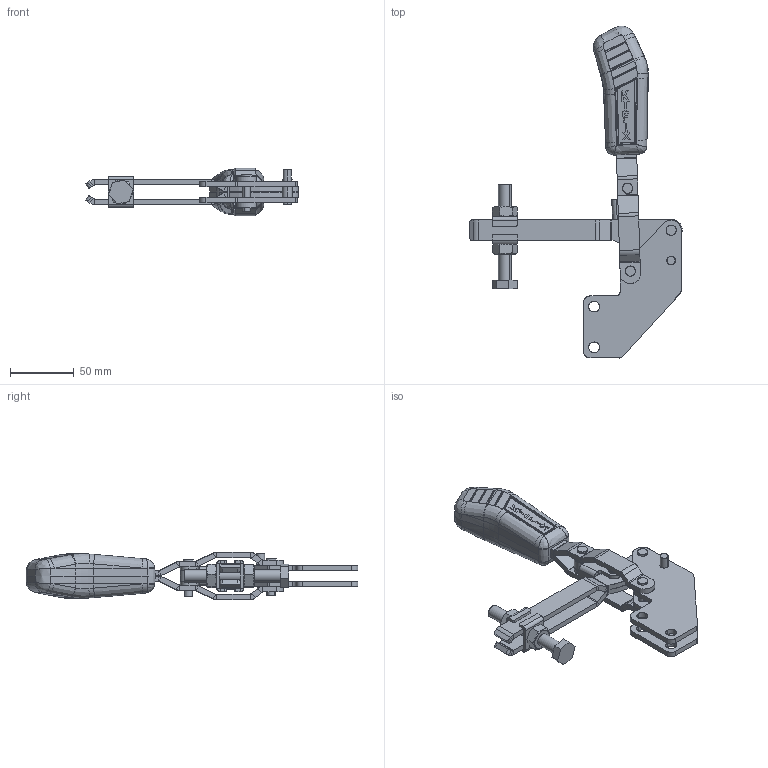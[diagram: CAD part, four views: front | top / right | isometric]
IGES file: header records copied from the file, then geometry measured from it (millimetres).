
Start section: SolidWorks IGES file using analytic representation for surfaces
Global section: file name: C:\Projetos\Grampos\KF-311\KF-311 RB\KF-311 RB.IGS; native system: SolidWorks 2013; preprocessor: SolidWorks 2013; author: Ricardo; date: 140731.142330; units: millimetre
Bounding box: 166.22 x 259.79 x 37 mm (x, y, z)
Surface area: 82337.5 mm2 (no closed solid volume)
Topology: 0 solids, 0 shells, 846 faces, 8932 edges, 8901 vertices
Faces by surface type: bspline 526, revolution 320
